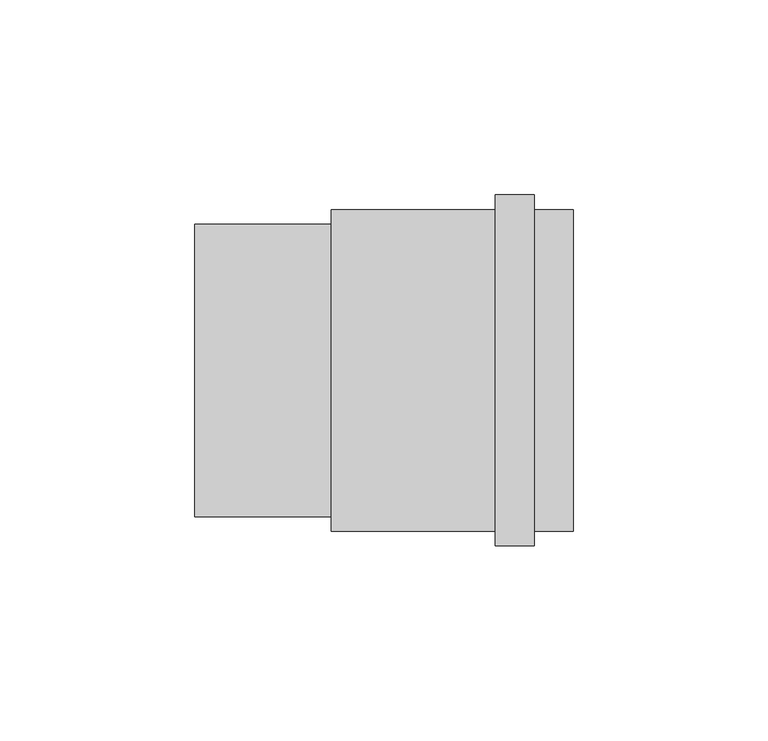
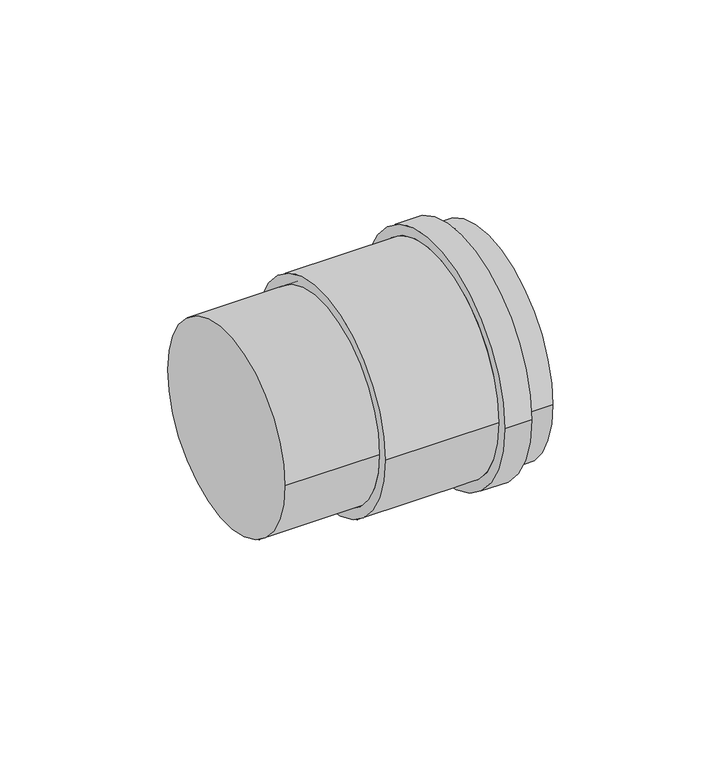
"""IFC4 building model written with IfcOpenShell, lengths in millimetres: pipe fitting geometry, NLRS_52_PIF_UN_PE steekmof met lippendichting_geb : DN40-150 / ø40-160."""

import ifcopenshell
import ifcopenshell.guid

model = None  # the IFC model being written
_history = None  # IfcOwnerHistory: only IFC2X3 demands one
_inside = {}  # id of a spatial element -> (the spatial element, [elements in it])
_under = {}  # id of a project, library or spatial element -> (it, [spatial elements below it])
_declared = {}  # id of a project -> (the project, [libraries it declares])
_typed = {}  # id of a type object -> (the type object, [elements of that type])
_made_of = {}  # id of a material, layer set ... -> (it, [elements and type objects made of it])


def new_model(schema):
    """Start an empty IFC model of exactly this schema.

    Asked for "IFC4X3", IfcOpenShell would pick the latest addendum, in which some entities
    have other attributes; the version numbers below select the first issue.
    IFC2X3 requires an IfcOwnerHistory on every rooted entity: one is made here for all.
    """
    global model, _history
    if schema == "IFC4X3":
        model = ifcopenshell.file(schema_version=(4, 3, 0, 0))
    else:
        model = ifcopenshell.file(schema=schema)
    _inside.clear()
    _under.clear()
    _declared.clear()
    _typed.clear()
    _made_of.clear()
    _history = None
    if model.schema == "IFC2X3":
        org = make("IfcOrganization", Name="unknown")
        user = make(
            "IfcPersonAndOrganization",
            ThePerson=make("IfcPerson", FamilyName="unknown"),
            TheOrganization=org,
        )
        app = make(
            "IfcApplication",
            ApplicationDeveloper=org,
            Version="unknown",
            ApplicationFullName="unknown",
            ApplicationIdentifier="unknown",
        )
        _history = make(
            "IfcOwnerHistory",
            OwningUser=user,
            OwningApplication=app,
            ChangeAction="ADDED",
            CreationDate=0,
        )
    return model


def make(cls, **values):
    """One entity of the class cls with the attributes given. An attribute that is None is left unset."""
    return model.create_entity(
        cls, **{name: value for name, value in values.items() if value is not None}
    )


def rooted(cls, **values):
    """An entity with a GlobalId (a new one), such as an element, a storey or a relation."""
    return make(cls, GlobalId=ifcopenshell.guid.new(), OwnerHistory=_history, **values)


def si_unit(unit_type, name, prefix=None):
    """IfcSIUnit, for example si_unit("LENGTHUNIT", "METRE", prefix="MILLI")."""
    return make("IfcSIUnit", UnitType=unit_type, Prefix=prefix, Name=name)


def assignment(units):
    """IfcUnitAssignment: the units of a project."""
    return None if units is None else make("IfcUnitAssignment", Units=units)


def point(xyz):
    """IfcCartesianPoint."""
    return None if xyz is None else make("IfcCartesianPoint", Coordinates=xyz)


def direction(xyz):
    """IfcDirection."""
    return None if xyz is None else make("IfcDirection", DirectionRatios=xyz)


def frame(location, z_axis=None, x_axis=None):
    """IfcAxis2Placement3D, a coordinate frame: its origin and axes. An axis left out is left unset."""
    return make(
        "IfcAxis2Placement3D",
        Location=point(location),
        Axis=direction(z_axis),
        RefDirection=direction(x_axis),
    )


def origin():
    """The frame at (0, 0, 0) with its axes left unset."""
    return frame((0.0, 0.0, 0.0))


def place(relative_to, where):
    """IfcLocalPlacement: puts the frame where relative to a parent placement (None: the world)."""
    return make(
        "IfcLocalPlacement", PlacementRelTo=relative_to, RelativePlacement=where
    )


def context(
    kind, dimensions, precision=None, world=None, true_north=None, identifier=None
):
    """IfcGeometricRepresentationContext, for example the 3D "Model" context."""
    return make(
        "IfcGeometricRepresentationContext",
        ContextIdentifier=identifier,
        ContextType=kind,
        CoordinateSpaceDimension=dimensions,
        Precision=precision,
        WorldCoordinateSystem=world,
        TrueNorth=true_north,
    )


def project(units=None, contexts=None):
    """IfcProject with its units and contexts."""
    return rooted(
        "IfcProject",
        Name="project",
        RepresentationContexts=contexts,
        UnitsInContext=assignment(units),
    )


def spatial(cls, under=None, at=None, **own):
    """A site, building, storey or space (cls), placed at a placement, below another one or the project."""
    s = rooted(cls, ObjectPlacement=at, **own)
    if under is not None:
        _under.setdefault(under.id(), (under, []))[1].append(s)
    return s


def polyline(points):
    """IfcPolyline through the points."""
    return make("IfcPolyline", Points=[point(p) for p in points])


def circle_curve(where, radius):
    """IfcCircle in the frame where."""
    return make("IfcCircle", Position=where, Radius=radius)


def shape(context_of_items, identifier, shape_type, items):
    """IfcShapeRepresentation: the items that make up one representation, for example the "Body"."""
    return make(
        "IfcShapeRepresentation",
        ContextOfItems=context_of_items,
        RepresentationIdentifier=identifier,
        RepresentationType=shape_type,
        Items=items,
    )


def source(mapping_origin, context_of_items, identifier, shape_type, items):
    """IfcRepresentationMap: a shape defined once, which mapped items show again and again."""
    return make(
        "IfcRepresentationMap",
        MappingOrigin=mapping_origin,
        MappedRepresentation=shape(context_of_items, identifier, shape_type, items),
    )


def transform(
    local_origin,
    x_axis=None,
    y_axis=None,
    z_axis=None,
    scale=None,
    scale2=None,
    scale3=None,
    uniform=True,
):
    """IfcCartesianTransformationOperator3D, or its non-uniform kind. x_axis, y_axis, z_axis: its Axis1, 2, 3."""
    if uniform:
        return make(
            "IfcCartesianTransformationOperator3D",
            Axis1=direction(x_axis),
            Axis2=direction(y_axis),
            LocalOrigin=point(local_origin),
            Scale=scale,
            Axis3=direction(z_axis),
        )
    return make(
        "IfcCartesianTransformationOperator3DnonUniform",
        Axis1=direction(x_axis),
        Axis2=direction(y_axis),
        LocalOrigin=point(local_origin),
        Scale=scale,
        Axis3=direction(z_axis),
        Scale2=scale2,
        Scale3=scale3,
    )


def mapped(mapping_source, mapping_target):
    """IfcMappedItem: shows the shape of a source again, moved by a transform."""
    return make(
        "IfcMappedItem", MappingSource=mapping_source, MappingTarget=mapping_target
    )


def made_of(thing, what):
    """Note that an element or type object is made of a material, layer set ...; save() writes the relation."""
    if what is not None:
        _made_of.setdefault(what.id(), (what, []))[1].append(thing)
    return thing


def element(
    cls,
    number,
    at=None,
    inside=None,
    cuts=None,
    type_object=None,
    material=None,
    context=None,
    identifier="Body",
    shape_type=None,
    held_by="IfcProductDefinitionShape",
    body=None,
    shapes=None,
    **own,
):
    """One element of the class cls, such as IfcWall. Its Tag is "e" and its number.

    at: its placement. inside: the storey or other place that contains it. cuts: it is an
    opening in that element (IfcRelVoidsElement). A single representation is given by context,
    identifier, shape_type and body (its items); several are given by shapes. held_by: the class
    of the entity that holds the representations. save() writes the other relations.
    """
    e = rooted(cls, Tag="e%d" % number, ObjectPlacement=at, **own)
    if body is not None:
        shapes = [shape(context, identifier, shape_type, body)]
    if shapes is not None:
        e.Representation = make(held_by, Representations=shapes)
    if inside is not None:
        _inside.setdefault(inside.id(), (inside, []))[1].append(e)
    if cuts is not None:
        rooted(
            "IfcRelVoidsElement", RelatingBuildingElement=cuts, RelatedOpeningElement=e
        )
    if type_object is not None:
        _typed.setdefault(type_object.id(), (type_object, []))[1].append(e)
    return made_of(e, material)


def aggregate(whole, parts):
    """IfcRelAggregates: a whole, such as a stair, and the parts it consists of."""
    return rooted("IfcRelAggregates", RelatingObject=whole, RelatedObjects=parts)


def save(model, path):
    """Write the relations noted so far, then the file.

    IfcRelAggregates (storeys below a building ...), IfcRelContainedInSpatialStructure (elements
    in a storey), IfcRelDefinesByType, IfcRelAssociatesMaterial and IfcRelDeclares: one each for
    every whole, place, type object, material and project.
    """
    for whole, parts in _under.values():
        aggregate(whole, parts)
    for where, things in _inside.values():
        rooted(
            "IfcRelContainedInSpatialStructure",
            RelatedElements=things,
            RelatingStructure=where,
        )
    for kind, things in _typed.values():
        rooted("IfcRelDefinesByType", RelatedObjects=things, RelatingType=kind)
    for what, things in _made_of.values():
        rooted("IfcRelAssociatesMaterial", RelatedObjects=things, RelatingMaterial=what)
    for by, libraries in _declared.values():
        rooted("IfcRelDeclares", RelatingContext=by, RelatedDefinitions=libraries)
    model.write(path)


def plane_surface(at):
    """IfcPlane: the flat surface through the origin of the frame at, square to its z axis."""
    return make("IfcPlane", Position=at)


def cylinder_surface(at, radius):
    """IfcCylindricalSurface: all points at the distance radius from the z axis of the frame at."""
    return make("IfcCylindricalSurface", Position=at, Radius=radius)


def revolved_surface(curve, axis_point, axis_direction):
    """IfcSurfaceOfRevolution: the curve turned about the line through axis_point along axis_direction."""
    return make(
        "IfcSurfaceOfRevolution",
        SweptCurve=make("IfcArbitraryOpenProfileDef", ProfileType="CURVE", Curve=curve),
        AxisPosition=make("IfcAxis1Placement", Location=point(axis_point), Axis=direction(axis_direction)),
    )


def advanced_brep(points, edges, surfaces, faces):
    """IfcAdvancedBrep: a solid bounded by faces that lie on surfaces and meet in shared edges.

    An edge is (start, end): straight between two places in points (the first is 0);
    or (start, end, curve); or (start, end, curve, False) where it runs against its curve.
    A face is (place in surfaces, loops), or (place, loops, False) where it looks against
    its surface's normal. A loop lists edges by number (the first is 1), with a minus sign
    where the edge is run from its end to its start. The first loop is the outer one.
    """
    corners = [point(p) for p in points]
    vertices = [make("IfcVertexPoint", VertexGeometry=c) for c in corners]
    made = []
    for start, end, *more in edges:
        made.append(
            make(
                "IfcEdgeCurve",
                EdgeStart=vertices[start],
                EdgeEnd=vertices[end],
                EdgeGeometry=more[0] if more else make("IfcPolyline", Points=[corners[start], corners[end]]),
                SameSense=more[1] if len(more) > 1 else True,
            )
        )
    hull = []
    for where, loops, *sense in faces:
        bounds = []
        for j, loop in enumerate(loops):
            ring = [make("IfcOrientedEdge", EdgeElement=made[abs(k) - 1], Orientation=k > 0) for k in loop]
            bounds.append(
                make(
                    "IfcFaceOuterBound" if j == 0 else "IfcFaceBound",
                    Bound=make("IfcEdgeLoop", EdgeList=ring),
                    Orientation=True,
                )
            )
        hull.append(make("IfcAdvancedFace", Bounds=bounds, FaceSurface=surfaces[where], SameSense=sense[0] if sense else True))
    return make("IfcAdvancedBrep", Outer=make("IfcClosedShell", CfsFaces=hull))


def pipe_fitting_06a9d853(model_context):
    return source(origin(), model_context, "Body", "AdvancedBrep", [
        advanced_brep(
        [(38.5, -45.0, 0.0), (38.5, 45.0, 0.0), (38.5, 41.25, 0.0), (38.5, -41.25, 0.0), (28.5, -45.0, 0.0), (28.5, 45.0, 0.0), (28.5, -41.25, 0.0), (28.5, 41.25, 0.0), (48.5, -41.25, 0.0), (48.5, 41.25, 0.0), (48.5, -37.5, 0.0), (48.5, 37.5, 0.0), (-13.5, -41.25, 0.0), (-13.5, 41.25, 0.0), (-13.5, -37.5, 0.0), (-13.5, 37.5, 0.0), (-13.5, -37.5, 0.0), (-13.5, 37.5, 0.0), (-48.5, -37.5, 0.0), (-48.5, 37.5, 0.0)],
        [
            (0, 1, circle_curve(frame((38.5, 0.0, 0.0), z_axis=(1.0, 0.0, 0.0), x_axis=(0.0, 1.0, 0.0)), 45.0)),
            (1, 0, circle_curve(frame((38.5, 0.0, 0.0), z_axis=(1.0, 0.0, 0.0), x_axis=(0.0, 1.0, 0.0)), 45.0)),
            (2, 3, circle_curve(frame((38.5, 0.0, 0.0), z_axis=(-1.0, 0.0, 0.0), x_axis=(0.0, 1.0, 0.0)), 41.25)),
            (3, 2, circle_curve(frame((38.5, 0.0, 0.0), z_axis=(-1.0, 0.0, 0.0), x_axis=(0.0, 1.0, 0.0)), 41.25)),
            (4, 5, circle_curve(frame((28.5, 0.0, 0.0), z_axis=(-1.0, 0.0, 0.0), x_axis=(0.0, 1.0, 0.0)), 45.0)),
            (5, 4, circle_curve(frame((28.5, 0.0, 0.0), z_axis=(-1.0, 0.0, 0.0), x_axis=(0.0, 1.0, 0.0)), 45.0)),
            (6, 7, circle_curve(frame((28.5, 0.0, 0.0), z_axis=(1.0, 0.0, 0.0), x_axis=(0.0, 1.0, 0.0)), 41.25)),
            (7, 6, circle_curve(frame((28.5, 0.0, 0.0), z_axis=(1.0, 0.0, 0.0), x_axis=(0.0, 1.0, 0.0)), 41.25)),
            (0, 4),
            (5, 1),
            (8, 9, circle_curve(frame((48.5, 0.0, 0.0), z_axis=(1.0, 0.0, 0.0), x_axis=(0.0, 1.0, 0.0)), 41.25)),
            (9, 8, circle_curve(frame((48.5, 0.0, 0.0), z_axis=(1.0, 0.0, 0.0), x_axis=(0.0, 1.0, 0.0)), 41.25)),
            (10, 11, circle_curve(frame((48.5, 0.0, 0.0), z_axis=(-1.0, 0.0, 0.0), x_axis=(0.0, 1.0, 0.0)), 37.5)),
            (11, 10, circle_curve(frame((48.5, 0.0, 0.0), z_axis=(-1.0, 0.0, 0.0), x_axis=(0.0, 1.0, 0.0)), 37.5)),
            (12, 13, circle_curve(frame((-13.5, 0.0, 0.0), z_axis=(-1.0, 0.0, 0.0), x_axis=(0.0, 1.0, 0.0)), 41.25)),
            (13, 12, circle_curve(frame((-13.5, 0.0, 0.0), z_axis=(-1.0, 0.0, 0.0), x_axis=(0.0, 1.0, 0.0)), 41.25)),
            (14, 15, circle_curve(frame((-13.5, 0.0, 0.0), z_axis=(1.0, 0.0, 0.0), x_axis=(0.0, 1.0, 0.0)), 37.5)),
            (15, 14, circle_curve(frame((-13.5, 0.0, 0.0), z_axis=(1.0, 0.0, 0.0), x_axis=(0.0, 1.0, 0.0)), 37.5)),
            (8, 3),
            (2, 9),
            (13, 7),
            (6, 12),
            (10, 16),
            (16, 17, circle_curve(frame((-13.5, 0.0, 0.0), z_axis=(-1.0, 0.0, 0.0), x_axis=(0.0, 1.0, 0.0)), 37.5)),
            (17, 11),
            (17, 16, circle_curve(frame((-13.5, 0.0, 0.0), z_axis=(-1.0, 0.0, 0.0), x_axis=(0.0, 1.0, 0.0)), 37.5)),
            (18, 19, circle_curve(frame((-48.5, 0.0, 0.0), z_axis=(-1.0, 0.0, 0.0), x_axis=(0.0, 1.0, 0.0)), 37.5)),
            (19, 18, circle_curve(frame((-48.5, 0.0, 0.0), z_axis=(-1.0, 0.0, 0.0), x_axis=(0.0, 1.0, 0.0)), 37.5)),
            (19, 15),
            (14, 18),
        ],
        [
            plane_surface(frame((38.5, 45.0, 0.0), z_axis=(1.0, 0.0, 0.0), x_axis=(0.0, 0.0, 1.0))),
            plane_surface(frame((28.5, 45.0, 0.0), z_axis=(-1.0, 0.0, 0.0), x_axis=(0.0, 0.0, -1.0))),
            cylinder_surface(frame((28.5, 0.0, 0.0), z_axis=(1.0, 0.0, 0.0), x_axis=(0.0, 1.0, 0.0)), 45.0),
            plane_surface(frame((48.5, 41.25, 0.0), z_axis=(1.0, 0.0, 0.0), x_axis=(0.0, 0.0, 1.0))),
            plane_surface(frame((-13.5, 41.25, 0.0), z_axis=(-1.0, 0.0, 0.0), x_axis=(0.0, 0.0, -1.0))),
            cylinder_surface(frame((-13.5, 0.0, 0.0), z_axis=(1.0, 0.0, 0.0), x_axis=(0.0, 1.0, 0.0)), 41.25),
            revolved_surface(polyline([(-13.5, 37.5, 0.0), (48.5, 37.5, 0.0)]), (0.0, 0.0, 0.0), (-1.0, 0.0, 0.0)),
            plane_surface(frame((-13.5, 37.5, 0.0), z_axis=(1.0, 0.0, 0.0), x_axis=(0.0, 0.0, 1.0))),
            plane_surface(frame((-48.5, 37.5, 0.0), z_axis=(-1.0, 0.0, 0.0), x_axis=(0.0, 0.0, -1.0))),
            cylinder_surface(frame((-48.5, 0.0, 0.0), z_axis=(1.0, 0.0, 0.0), x_axis=(0.0, 1.0, 0.0)), 37.5),
        ],
        [
            (0, [[1, 2], [3, 4]]),
            (1, [[5, 6], [7, 8]]),
            (2, [[-1, 9, -6, 10]]),
            (2, [[-2, -10, -5, -9]]),
            (3, [[11, 12], [13, 14]]),
            (4, [[15, 16], [17, 18]]),
            (5, [[-11, 19, -3, 20]]),
            (5, [[-16, 21, -7, 22]]),
            (5, [[-12, -20, -4, -19]]),
            (5, [[-15, -22, -8, -21]]),
            (6, [[-13, 23, 24, 25]]),
            (6, [[-14, -25, 26, -23]]),
            (7, [[-24, -26]]),
            (8, [[27, 28]]),
            (9, [[-28, 29, -17, 30]]),
            (9, [[-27, -30, -18, -29]]),
        ],
    ),
    ])


if __name__ == "__main__":
    model = new_model("IFC4")
    model_context = context("Model", 3, world=origin())
    ifc_project = project(units=[si_unit("LENGTHUNIT", "METRE", prefix="MILLI")], contexts=[model_context])
    site = spatial("IfcSite", under=ifc_project)
    building = spatial("IfcBuilding", under=site)
    placement = place(None, origin())
    pipe_fitting_shape = pipe_fitting_06a9d853(model_context)
    element("IfcPipeFitting", 1, ObjectType="NLRS_52_PIF_UN_PE steekmof met lippendichting_geb : DN40-150 / ø40-160", at=placement, inside=building, context=model_context, shape_type="MappedRepresentation", body=[
        mapped(pipe_fitting_shape, transform((0.0, 0.0, 0.0), x_axis=(1.0, 0.0, 0.0), y_axis=(0.0, 1.0, 0.0), z_axis=(0.0, 0.0, 1.0))),
    ])
    save(model, "model.ifc")
